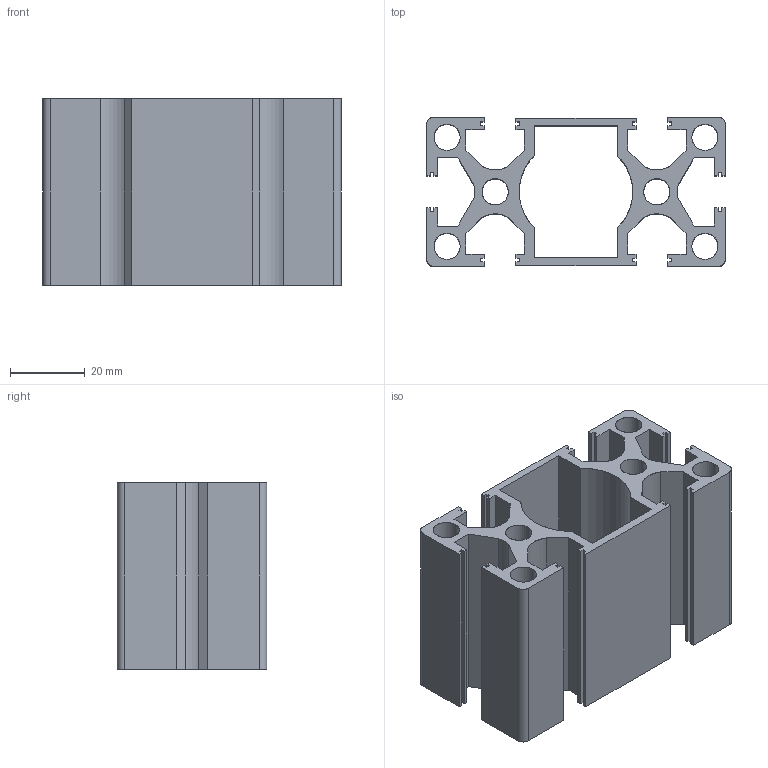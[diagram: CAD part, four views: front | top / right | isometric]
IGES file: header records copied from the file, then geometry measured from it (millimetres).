
Start section: SolidWorks IGES file using analytic representation for surfaces
Global section: file name: C:\Documents and Settings\URETIM3\Desktop\yeni katalog tolgay düzenli\C kataloðu\40x80 köþe baðlantý eloksallý sigma alüminyum profil\765 040 080.IGS; native system: SolidWorks 2006 by SolidWorks Corporation; preprocessor: SolidWorks 2006 by SolidWorks Corporation; author: URETIM3; date: 060912.102019; units: millimetre
Bounding box: 80 x 40 x 50 mm (x, y, z)
Surface area: 38640.5 mm2 (no closed solid volume)
Topology: 0 solids, 0 shells, 140 faces, 1368 edges, 1368 vertices
Faces by surface type: bspline 114, revolution 26
